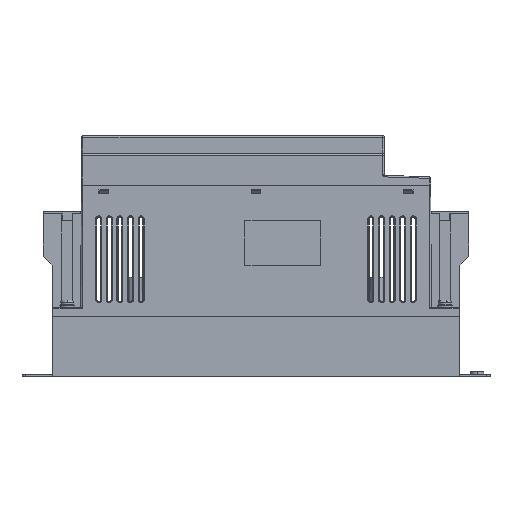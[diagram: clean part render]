
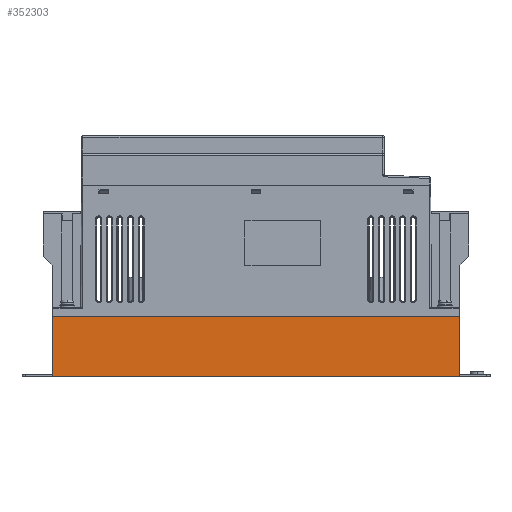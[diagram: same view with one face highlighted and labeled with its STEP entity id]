
A CAD part, left-side view. The second image highlights one B-rep face of the part: STEP entity #352303.
In plain terms, the highlighted planar face has unit normal (-1, 0, 0).
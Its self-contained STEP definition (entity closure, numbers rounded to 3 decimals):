
#250357 = PLANE('',#250358);
#250358 = AXIS2_PLACEMENT_3D('',#250359,#250360,#250361);
#250359 = CARTESIAN_POINT('',(-64.5,135.,-23.75));
#250360 = DIRECTION('',(0.,-1.,0.));
#250361 = DIRECTION('',(0.,-0.,-1.));
#250418 = PLANE('',#250419);
#250419 = AXIS2_PLACEMENT_3D('',#250420,#250421,#250422);
#250420 = CARTESIAN_POINT('',(-64.5,-135.,-23.75));
#250421 = DIRECTION('',(0.,-1.,0.));
#250422 = DIRECTION('',(0.,-0.,-1.));
#252307 = PLANE('',#252308);
#252308 = AXIS2_PLACEMENT_3D('',#252309,#252310,#252311);
#252309 = CARTESIAN_POINT('',(77.5,135.,0.));
#252310 = DIRECTION('',(0.,0.,1.));
#252311 = DIRECTION('',(1.,0.,0.));
#320822 = VERTEX_POINT('',#320823);
#320823 = CARTESIAN_POINT('',(-77.5,135.,-40.));
#320837 = PLANE('',#320838);
#320838 = AXIS2_PLACEMENT_3D('',#320839,#320840,#320841);
#320839 = CARTESIAN_POINT('',(-77.5,135.,-40.));
#320840 = DIRECTION('',(0.,0.,-1.));
#320841 = DIRECTION('',(-1.,0.,-0.));
#320849 = EDGE_CURVE('',#320850,#320822,#320852,.T.);
#320850 = VERTEX_POINT('',#320851);
#320851 = CARTESIAN_POINT('',(-77.5,135.,0.));
#320852 = SURFACE_CURVE('',#320853,(#320857,#320864),.PCURVE_S1.);
#320853 = LINE('',#320854,#320855);
#320854 = CARTESIAN_POINT('',(-77.5,135.,0.));
#320855 = VECTOR('',#320856,1.);
#320856 = DIRECTION('',(0.,0.,-1.));
#320857 = PCURVE('',#250357,#320858);
#320858 = DEFINITIONAL_REPRESENTATION('',(#320859),#320863);
#320859 = LINE('',#320860,#320861);
#320860 = CARTESIAN_POINT('',(-23.75,-13.));
#320861 = VECTOR('',#320862,1.);
#320862 = DIRECTION('',(1.,0.));
#320863 = ( GEOMETRIC_REPRESENTATION_CONTEXT(2) 
PARAMETRIC_REPRESENTATION_CONTEXT() REPRESENTATION_CONTEXT('2D SPACE',''
  ) );
#320864 = PCURVE('',#320865,#320870);
#320865 = PLANE('',#320866);
#320866 = AXIS2_PLACEMENT_3D('',#320867,#320868,#320869);
#320867 = CARTESIAN_POINT('',(-77.5,135.,0.));
#320868 = DIRECTION('',(-1.,0.,-0.));
#320869 = DIRECTION('',(0.,0.,1.));
#320870 = DEFINITIONAL_REPRESENTATION('',(#320871),#320875);
#320871 = LINE('',#320872,#320873);
#320872 = CARTESIAN_POINT('',(0.,0.));
#320873 = VECTOR('',#320874,1.);
#320874 = DIRECTION('',(-1.,0.));
#320875 = ( GEOMETRIC_REPRESENTATION_CONTEXT(2) 
PARAMETRIC_REPRESENTATION_CONTEXT() REPRESENTATION_CONTEXT('2D SPACE',''
  ) );
#351818 = VERTEX_POINT('',#351819);
#351819 = CARTESIAN_POINT('',(-77.5,-135.,0.));
#351840 = EDGE_CURVE('',#351818,#351841,#351843,.T.);
#351841 = VERTEX_POINT('',#351842);
#351842 = CARTESIAN_POINT('',(-77.5,-135.,-40.));
#351843 = SURFACE_CURVE('',#351844,(#351848,#351855),.PCURVE_S1.);
#351844 = LINE('',#351845,#351846);
#351845 = CARTESIAN_POINT('',(-77.5,-135.,0.));
#351846 = VECTOR('',#351847,1.);
#351847 = DIRECTION('',(0.,0.,-1.));
#351848 = PCURVE('',#250418,#351849);
#351849 = DEFINITIONAL_REPRESENTATION('',(#351850),#351854);
#351850 = LINE('',#351851,#351852);
#351851 = CARTESIAN_POINT('',(-23.75,-13.));
#351852 = VECTOR('',#351853,1.);
#351853 = DIRECTION('',(1.,0.));
#351854 = ( GEOMETRIC_REPRESENTATION_CONTEXT(2) 
PARAMETRIC_REPRESENTATION_CONTEXT() REPRESENTATION_CONTEXT('2D SPACE',''
  ) );
#351855 = PCURVE('',#320865,#351856);
#351856 = DEFINITIONAL_REPRESENTATION('',(#351857),#351861);
#351857 = LINE('',#351858,#351859);
#351858 = CARTESIAN_POINT('',(0.,-270.));
#351859 = VECTOR('',#351860,1.);
#351860 = DIRECTION('',(-1.,0.));
#351861 = ( GEOMETRIC_REPRESENTATION_CONTEXT(2) 
PARAMETRIC_REPRESENTATION_CONTEXT() REPRESENTATION_CONTEXT('2D SPACE',''
  ) );
#352303 = ADVANCED_FACE('',(#352304),#320865,.T.);
#352304 = FACE_BOUND('',#352305,.T.);
#352305 = EDGE_LOOP('',(#352306,#352307,#352328,#352329));
#352306 = ORIENTED_EDGE('',*,*,#351840,.F.);
#352307 = ORIENTED_EDGE('',*,*,#352308,.F.);
#352308 = EDGE_CURVE('',#320850,#351818,#352309,.T.);
#352309 = SURFACE_CURVE('',#352310,(#352314,#352321),.PCURVE_S1.);
#352310 = LINE('',#352311,#352312);
#352311 = CARTESIAN_POINT('',(-77.5,135.,0.));
#352312 = VECTOR('',#352313,1.);
#352313 = DIRECTION('',(0.,-1.,0.));
#352314 = PCURVE('',#320865,#352315);
#352315 = DEFINITIONAL_REPRESENTATION('',(#352316),#352320);
#352316 = LINE('',#352317,#352318);
#352317 = CARTESIAN_POINT('',(0.,0.));
#352318 = VECTOR('',#352319,1.);
#352319 = DIRECTION('',(0.,-1.));
#352320 = ( GEOMETRIC_REPRESENTATION_CONTEXT(2) 
PARAMETRIC_REPRESENTATION_CONTEXT() REPRESENTATION_CONTEXT('2D SPACE',''
  ) );
#352321 = PCURVE('',#252307,#352322);
#352322 = DEFINITIONAL_REPRESENTATION('',(#352323),#352327);
#352323 = LINE('',#352324,#352325);
#352324 = CARTESIAN_POINT('',(-155.,0.));
#352325 = VECTOR('',#352326,1.);
#352326 = DIRECTION('',(0.,-1.));
#352327 = ( GEOMETRIC_REPRESENTATION_CONTEXT(2) 
PARAMETRIC_REPRESENTATION_CONTEXT() REPRESENTATION_CONTEXT('2D SPACE',''
  ) );
#352328 = ORIENTED_EDGE('',*,*,#320849,.T.);
#352329 = ORIENTED_EDGE('',*,*,#352330,.T.);
#352330 = EDGE_CURVE('',#320822,#351841,#352331,.T.);
#352331 = SURFACE_CURVE('',#352332,(#352336,#352343),.PCURVE_S1.);
#352332 = LINE('',#352333,#352334);
#352333 = CARTESIAN_POINT('',(-77.5,135.,-40.));
#352334 = VECTOR('',#352335,1.);
#352335 = DIRECTION('',(0.,-1.,0.));
#352336 = PCURVE('',#320865,#352337);
#352337 = DEFINITIONAL_REPRESENTATION('',(#352338),#352342);
#352338 = LINE('',#352339,#352340);
#352339 = CARTESIAN_POINT('',(-40.,0.));
#352340 = VECTOR('',#352341,1.);
#352341 = DIRECTION('',(0.,-1.));
#352342 = ( GEOMETRIC_REPRESENTATION_CONTEXT(2) 
PARAMETRIC_REPRESENTATION_CONTEXT() REPRESENTATION_CONTEXT('2D SPACE',''
  ) );
#352343 = PCURVE('',#320837,#352344);
#352344 = DEFINITIONAL_REPRESENTATION('',(#352345),#352349);
#352345 = LINE('',#352346,#352347);
#352346 = CARTESIAN_POINT('',(0.,0.));
#352347 = VECTOR('',#352348,1.);
#352348 = DIRECTION('',(-0.,-1.));
#352349 = ( GEOMETRIC_REPRESENTATION_CONTEXT(2) 
PARAMETRIC_REPRESENTATION_CONTEXT() REPRESENTATION_CONTEXT('2D SPACE',''
  ) );
